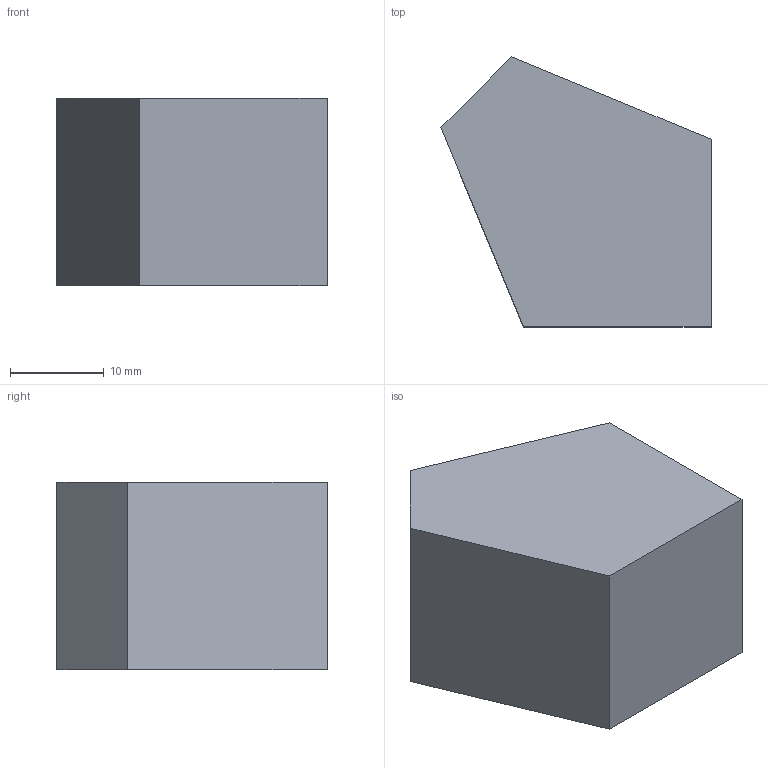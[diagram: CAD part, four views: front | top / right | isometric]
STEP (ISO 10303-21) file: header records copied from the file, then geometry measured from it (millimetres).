
FILE_DESCRIPTION((''),'2;1');
FILE_NAME('Z:\1図面ﾃﾞｰﾀ\7_素子\プリズム\10_ペンタプリズム\PPB\PPB-20-4\PPB-20-4.stp','2009-05-27T15:44:38',('kawashima'),(''),'Autodesk Inventor 2008','Autodesk Inventor 2008','');
FILE_SCHEMA(('AUTOMOTIVE_DESIGN { 1 0 10303 214 1 1 1 1 }'));
Length unit declared in the file: millimetre
Products named in the file (1): PPB-20-4
Bounding box: 28.8 x 28.8 x 20 mm (x, y, z)
Volume: 12279.8 mm3; surface area: 3161.6 mm2
Topology: 1 solids, 1 shells, 7 faces, 15 edges, 10 vertices
Faces by surface type: plane 7
Entity records: 215 total; most frequent: CARTESIAN_POINT 33, DIRECTION 31, ORIENTED_EDGE 30, VECTOR 15, LINE 15, EDGE_CURVE 15, VERTEX_POINT 10, AXIS2_PLACEMENT_3D 8
